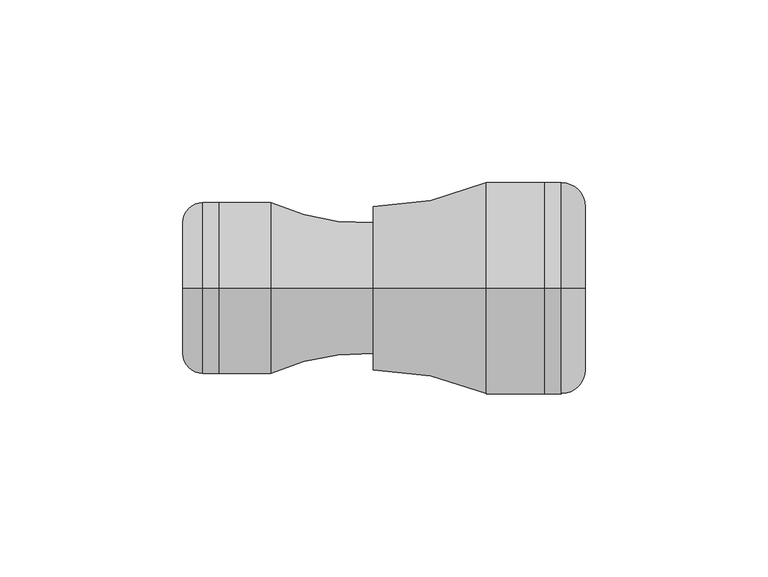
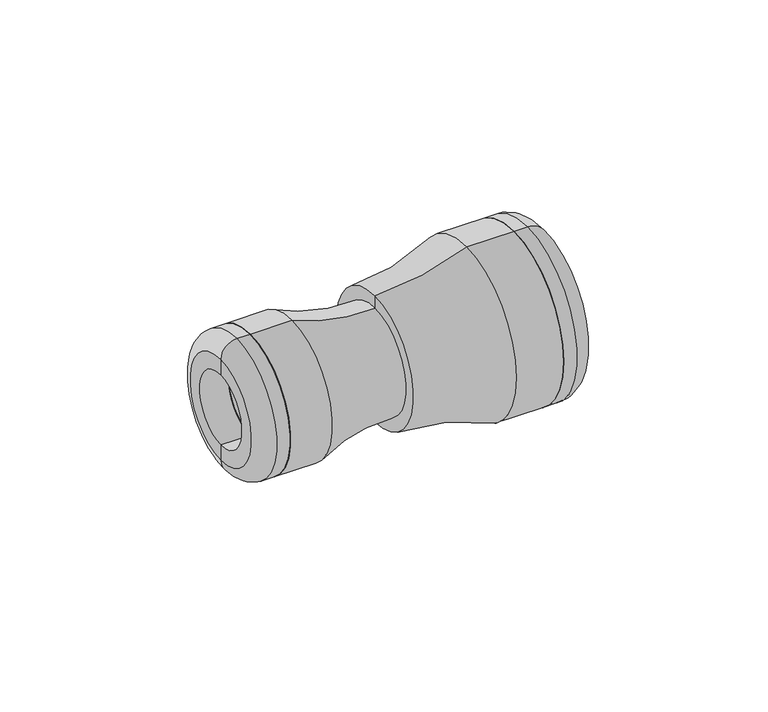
"""IFC4 building model written with IfcOpenShell, lengths in millimetres: pipe fitting geometry, Plumbing_Pipe-Fittings_Plasson_Reducing-Coupler_1011 : Plumbing_Pipe-Fittings_Plasson_Reducing-Coupler_1011."""

from ifc_helpers import new_model, si_unit, point, frame, origin, place, context, project, spatial, polyline, circle_curve, ellipse_curve, trimmed, source, transform, mapped, element, save
from ifc_brep_helpers import plane_surface, cylinder_surface, revolved_surface, advanced_brep


def pipe_fitting_500e536a(model_context):
    return source(origin(), model_context, "Body", "AdvancedBrep", [
        advanced_brep(
        [(-41.1182864, 0.0, -12.5), (-41.1182864, 0.0, 12.5), (-41.1182864, 0.0, 23.5), (-41.1182864, 0.0, -23.5), (-3.1182864, 0.0, -12.5), (-3.1182864, 0.0, 12.5), (-3.1182864, 0.0, 0.0), (0.8817136, 0.0, -18.0), (0.8817136, 0.0, 18.0), (0.8817136, 0.0, 0.0), (-27.1182864, 0.0, 23.5), (-27.1182864, 0.0, -23.5)],
        [
            (0, 1, circle_curve(frame((-41.1182864, 0.0, 0.0), z_axis=(1.0, 0.0, 0.0), x_axis=(0.0, 0.0, 1.0)), 12.5)),
            (1, 2),
            (2, 3, circle_curve(frame((-41.1182864, 0.0, 0.0), z_axis=(-1.0, 0.0, 0.0), x_axis=(0.0, 0.0, 1.0)), 23.5)),
            (3, 0),
            (1, 0, circle_curve(frame((-41.1182864, 0.0, 0.0), z_axis=(1.0, 0.0, 0.0), x_axis=(0.0, 0.0, 1.0)), 12.5)),
            (3, 2, circle_curve(frame((-41.1182864, 0.0, 0.0), z_axis=(-1.0, 0.0, 0.0), x_axis=(0.0, 0.0, 1.0)), 23.5)),
            (4, 5, circle_curve(frame((-3.1182864, 0.0, 0.0), z_axis=(1.0, 0.0, 0.0), x_axis=(0.0, 0.0, 1.0)), 12.5)),
            (5, 1),
            (0, 4),
            (5, 4, circle_curve(frame((-3.1182864, 0.0, 0.0), z_axis=(1.0, 0.0, 0.0), x_axis=(0.0, 0.0, 1.0)), 12.5)),
            (6, 5),
            (4, 6),
            (7, 8, circle_curve(frame((0.8817136, 0.0, 0.0), z_axis=(1.0, 0.0, 0.0), x_axis=(0.0, 0.0, 1.0)), 18.0)),
            (8, 9),
            (9, 7),
            (8, 7, circle_curve(frame((0.8817136, 0.0, 0.0), z_axis=(1.0, 0.0, 0.0), x_axis=(0.0, 0.0, 1.0)), 18.0)),
            (2, 10),
            (10, 11, circle_curve(frame((-27.1182864, 0.0, 0.0), z_axis=(-1.0, 0.0, 0.0), x_axis=(0.0, 0.0, 1.0)), 23.5)),
            (11, 3),
            (11, 10, circle_curve(frame((-27.1182864, 0.0, 0.0), z_axis=(-1.0, 0.0, 0.0), x_axis=(0.0, 0.0, 1.0)), 23.5)),
            (10, 8, circle_curve(frame((-1.4699347, 0.0, 80.0506993), z_axis=(0.0, -1.0, 0.0), x_axis=(1.0, 0.0, 0.0)), 62.0952457)),
            (7, 11, circle_curve(frame((-1.4699347, 0.0, -80.0506993), z_axis=(0.0, -1.0, 0.0), x_axis=(1.0, 0.0, 0.0)), 62.0952457)),
        ],
        [
            plane_surface(frame((-41.1182864, 0.0, 0.0), z_axis=(-1.0, 0.0, 0.0), x_axis=(0.0, 0.0, 1.0))),
            revolved_surface(polyline([(-41.1182864, 0.0, 12.5), (-3.1182864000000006, 0.0, 12.5)]), (-16.6182864, 0.0, 0.0), (-1.0, 0.0, 0.0)),
            plane_surface(frame((-3.1182864, 0.0, 0.0), z_axis=(-1.0, 0.0, 0.0), x_axis=(0.0, 0.0, 1.0))),
            plane_surface(frame((0.8817136, 0.0, 0.0), z_axis=(1.0, 0.0, 0.0), x_axis=(0.0, 0.0, 1.0))),
            cylinder_surface(frame((-16.6182864, 0.0, 0.0), z_axis=(-1.0, 0.0, 0.0), x_axis=(0.0, 0.0, 1.0)), 23.5),
            revolved_surface(trimmed(ellipse_curve(frame((-1.4699347, 0.0, 80.0506993), z_axis=(0.0, 1.0, 0.0), x_axis=(1.0, 0.0, 0.0)), 62.0952457, 62.0952457), [point((0.8817136, 0.0, 18.0))], [point((-27.1182864, 0.0, 23.5))], True, "CARTESIAN"), (-16.6182864, 0.0, 0.0), (-1.0, 0.0, 0.0)),
        ],
        [
            (0, [[1, 2, 3, 4]]),
            (0, [[5, -4, 6, -2]]),
            (1, [[7, 8, -1, 9]]),
            (1, [[10, -9, -5, -8]]),
            (2, [[11, -7, 12]]),
            (2, [[-12, -10, -11]]),
            (3, [[13, 14, 15]]),
            (3, [[16, -15, -14]]),
            (4, [[-3, 17, 18, 19]]),
            (4, [[-6, -19, 20, -17]]),
            (5, [[-18, 21, -13, 22]]),
            (5, [[-20, -22, -16, -21]]),
        ],
    ),
        advanced_brep(
        [(58.8817136, 0.0, -16.0), (58.8817136, 0.0, 16.0), (47.8817136, 0.0, 16.0), (47.8817136, 0.0, -16.0), (58.8817136, 0.0, -22.5), (58.8817136, 0.0, 22.5), (52.3817136, 0.0, -29.0), (52.3817136, 0.0, 29.0), (47.8817136, 0.0, -29.0), (47.8817136, 0.0, 29.0)],
        [
            (0, 1, circle_curve(frame((58.8817136, 0.0, 0.0), z_axis=(1.0, 0.0, 0.0), x_axis=(0.0, 0.0, 1.0)), 16.0)),
            (1, 2),
            (2, 3, circle_curve(frame((47.8817136, 0.0, 0.0), z_axis=(-1.0, 0.0, 0.0), x_axis=(0.0, 0.0, 1.0)), 16.0)),
            (3, 0),
            (1, 0, circle_curve(frame((58.8817136, 0.0, 0.0), z_axis=(1.0, 0.0, 0.0), x_axis=(0.0, 0.0, 1.0)), 16.0)),
            (3, 2, circle_curve(frame((47.8817136, 0.0, 0.0), z_axis=(-1.0, 0.0, 0.0), x_axis=(0.0, 0.0, 1.0)), 16.0)),
            (4, 5, circle_curve(frame((58.8817136, 0.0, 0.0), z_axis=(1.0, 0.0, 0.0), x_axis=(0.0, 0.0, 1.0)), 22.5)),
            (5, 1),
            (0, 4),
            (5, 4, circle_curve(frame((58.8817136, 0.0, 0.0), z_axis=(1.0, 0.0, 0.0), x_axis=(0.0, 0.0, 1.0)), 22.5)),
            (6, 7, circle_curve(frame((52.3817136, 0.0, 0.0), z_axis=(1.0, 0.0, 0.0), x_axis=(0.0, 0.0, 1.0)), 29.0)),
            (7, 5, circle_curve(frame((52.3817136, 0.0, 22.5), z_axis=(0.0, 1.0, 0.0), x_axis=(1.0, 0.0, 0.0)), 6.5)),
            (4, 6, circle_curve(frame((52.3817136, 0.0, -22.5), z_axis=(0.0, 1.0, 0.0), x_axis=(1.0, 0.0, 0.0)), 6.5)),
            (7, 6, circle_curve(frame((52.3817136, 0.0, 0.0), z_axis=(1.0, 0.0, 0.0), x_axis=(0.0, 0.0, 1.0)), 29.0)),
            (8, 9, circle_curve(frame((47.8817136, 0.0, 0.0), z_axis=(1.0, 0.0, 0.0), x_axis=(0.0, 0.0, 1.0)), 29.0)),
            (9, 7),
            (6, 8),
            (9, 8, circle_curve(frame((47.8817136, 0.0, 0.0), z_axis=(1.0, 0.0, 0.0), x_axis=(0.0, 0.0, 1.0)), 29.0)),
            (2, 9),
            (8, 3),
        ],
        [
            revolved_surface(polyline([(47.8817136, 0.0, 16.0), (58.8817136, 0.0, 16.0)]), (36.3288773, 0.0, 0.0), (-1.0, 0.0, 0.0)),
            plane_surface(frame((58.8817136, 0.0, 0.0), z_axis=(1.0, 0.0, 0.0), x_axis=(0.0, 0.0, 1.0))),
            revolved_surface(trimmed(ellipse_curve(frame((52.3817136, 0.0, 22.5), z_axis=(0.0, -1.0, 0.0), x_axis=(1.0, 0.0, 0.0)), 6.5, 6.5), [point((58.8817136, 0.0, 22.5))], [point((52.3817136, 0.0, 29.0))], True, "CARTESIAN"), (36.3288773, 0.0, 0.0), (-1.0, 0.0, 0.0)),
            cylinder_surface(frame((36.3288773, 0.0, 0.0), z_axis=(-1.0, 0.0, 0.0), x_axis=(0.0, 0.0, 1.0)), 29.0),
            plane_surface(frame((47.8817136, 0.0, 0.0), z_axis=(-1.0, 0.0, 0.0), x_axis=(0.0, 0.0, 1.0))),
        ],
        [
            (0, [[1, 2, 3, 4]]),
            (0, [[5, -4, 6, -2]]),
            (1, [[7, 8, -1, 9]]),
            (1, [[10, -9, -5, -8]]),
            (2, [[11, 12, -7, 13]]),
            (2, [[14, -13, -10, -12]]),
            (3, [[15, 16, -11, 17]]),
            (3, [[18, -17, -14, -16]]),
            (4, [[-3, 19, -15, 20]]),
            (4, [[-6, -20, -18, -19]]),
        ],
    ),
        advanced_brep(
        [(-41.1182864, 0.0, -23.5), (-41.1182864, 0.0, 23.5), (-41.1182864, 0.0, 12.5), (-41.1182864, 0.0, -12.5), (-45.6182864, 0.0, -23.5), (-45.6182864, 0.0, 23.5), (-51.1182864, 0.0, -18.0), (-51.1182864, 0.0, 18.0), (-51.1182864, 0.0, -12.5), (-51.1182864, 0.0, 12.5)],
        [
            (0, 1, circle_curve(frame((-41.1182864, 0.0, 0.0), z_axis=(1.0, 0.0, 0.0), x_axis=(0.0, 0.0, 1.0)), 23.5)),
            (1, 2),
            (2, 3, circle_curve(frame((-41.1182864, 0.0, 0.0), z_axis=(-1.0, 0.0, 0.0), x_axis=(0.0, 0.0, 1.0)), 12.5)),
            (3, 0),
            (1, 0, circle_curve(frame((-41.1182864, 0.0, 0.0), z_axis=(1.0, 0.0, 0.0), x_axis=(0.0, 0.0, 1.0)), 23.5)),
            (3, 2, circle_curve(frame((-41.1182864, 0.0, 0.0), z_axis=(-1.0, 0.0, 0.0), x_axis=(0.0, 0.0, 1.0)), 12.5)),
            (4, 5, circle_curve(frame((-45.6182864, 0.0, 0.0), z_axis=(1.0, 0.0, 0.0), x_axis=(0.0, 0.0, 1.0)), 23.5)),
            (5, 1),
            (0, 4),
            (5, 4, circle_curve(frame((-45.6182864, 0.0, 0.0), z_axis=(1.0, 0.0, 0.0), x_axis=(0.0, 0.0, 1.0)), 23.5)),
            (6, 7, circle_curve(frame((-51.1182864, 0.0, 0.0), z_axis=(1.0, 0.0, 0.0), x_axis=(0.0, 0.0, 1.0)), 18.0)),
            (7, 5, circle_curve(frame((-45.6182864, 0.0, 18.0), z_axis=(0.0, 1.0, 0.0), x_axis=(1.0, 0.0, 0.0)), 5.5)),
            (4, 6, circle_curve(frame((-45.6182864, 0.0, -18.0), z_axis=(0.0, 1.0, 0.0), x_axis=(1.0, 0.0, 0.0)), 5.5)),
            (7, 6, circle_curve(frame((-51.1182864, 0.0, 0.0), z_axis=(1.0, 0.0, 0.0), x_axis=(0.0, 0.0, 1.0)), 18.0)),
            (8, 9, circle_curve(frame((-51.1182864, 0.0, 0.0), z_axis=(1.0, 0.0, 0.0), x_axis=(0.0, 0.0, 1.0)), 12.5)),
            (9, 7),
            (6, 8),
            (9, 8, circle_curve(frame((-51.1182864, 0.0, 0.0), z_axis=(1.0, 0.0, 0.0), x_axis=(0.0, 0.0, 1.0)), 12.5)),
            (2, 9),
            (8, 3),
        ],
        [
            plane_surface(frame((-41.1182864, 0.0, 0.0), z_axis=(1.0, 0.0, 0.0), x_axis=(0.0, 0.0, 1.0))),
            cylinder_surface(frame((-56.1182864, 0.0, 0.0), z_axis=(-1.0, 0.0, 0.0), x_axis=(0.0, 0.0, 1.0)), 23.5),
            revolved_surface(trimmed(ellipse_curve(frame((-45.6182864, 0.0, 18.0), z_axis=(0.0, -1.0, 0.0), x_axis=(1.0, 0.0, 0.0)), 5.5, 5.5), [point((-45.6182864, 0.0, 23.5))], [point((-51.1182864, 0.0, 18.0))], True, "CARTESIAN"), (-56.1182864, 0.0, 0.0), (-1.0, 0.0, 0.0)),
            plane_surface(frame((-51.1182864, 0.0, 0.0), z_axis=(-1.0, 0.0, 0.0), x_axis=(0.0, 0.0, 1.0))),
            revolved_surface(polyline([(-51.1182864, 0.0, 12.5), (-41.1182864, 0.0, 12.5)]), (-56.1182864, 0.0, 0.0), (-1.0, 0.0, 0.0)),
        ],
        [
            (0, [[1, 2, 3, 4]]),
            (0, [[5, -4, 6, -2]]),
            (1, [[7, 8, -1, 9]]),
            (1, [[10, -9, -5, -8]]),
            (2, [[11, 12, -7, 13]]),
            (2, [[14, -13, -10, -12]]),
            (3, [[15, 16, -11, 17]]),
            (3, [[18, -17, -14, -16]]),
            (4, [[-3, 19, -15, 20]]),
            (4, [[-6, -20, -18, -19]]),
        ],
    ),
        advanced_brep(
        [(31.8817136, 0.0, -29.0), (31.8817136, 0.0, 29.0), (47.8817136, 0.0, 29.0), (47.8817136, 0.0, -29.0), (0.8817136, 0.0, -22.5), (0.8817136, 0.0, 22.5), (0.8817136, 0.0, 0.0), (4.8817136, 0.0, -16.0), (4.8817136, 0.0, 16.0), (4.8817136, 0.0, 0.0), (47.8817136, 0.0, -16.0), (47.8817136, 0.0, 16.0)],
        [
            (0, 1, circle_curve(frame((31.8817136, 0.0, 0.0), z_axis=(1.0, 0.0, 0.0), x_axis=(0.0, 0.0, 1.0)), 29.0)),
            (1, 2),
            (2, 3, circle_curve(frame((47.8817136, 0.0, 0.0), z_axis=(-1.0, 0.0, 0.0), x_axis=(0.0, 0.0, 1.0)), 29.0)),
            (3, 0),
            (1, 0, circle_curve(frame((31.8817136, 0.0, 0.0), z_axis=(1.0, 0.0, 0.0), x_axis=(0.0, 0.0, 1.0)), 29.0)),
            (3, 2, circle_curve(frame((47.8817136, 0.0, 0.0), z_axis=(-1.0, 0.0, 0.0), x_axis=(0.0, 0.0, 1.0)), 29.0)),
            (4, 5, circle_curve(frame((0.8817136, 0.0, 0.0), z_axis=(1.0, 0.0, 0.0), x_axis=(0.0, 0.0, 1.0)), 22.5)),
            (5, 1, circle_curve(frame((0.8817136, 0.0, 99.6730769), z_axis=(0.0, -1.0, 0.0), x_axis=(1.0, 0.0, 0.0)), 77.1730769)),
            (0, 4, circle_curve(frame((0.8817136, 0.0, -99.6730769), z_axis=(0.0, -1.0, 0.0), x_axis=(1.0, 0.0, 0.0)), 77.1730769)),
            (5, 4, circle_curve(frame((0.8817136, 0.0, 0.0), z_axis=(1.0, 0.0, 0.0), x_axis=(0.0, 0.0, 1.0)), 22.5)),
            (6, 5),
            (4, 6),
            (7, 8, circle_curve(frame((4.8817136, 0.0, 0.0), z_axis=(1.0, 0.0, 0.0), x_axis=(0.0, 0.0, 1.0)), 16.0)),
            (8, 9),
            (9, 7),
            (8, 7, circle_curve(frame((4.8817136, 0.0, 0.0), z_axis=(1.0, 0.0, 0.0), x_axis=(0.0, 0.0, 1.0)), 16.0)),
            (10, 11, circle_curve(frame((47.8817136, 0.0, 0.0), z_axis=(1.0, 0.0, 0.0), x_axis=(0.0, 0.0, 1.0)), 16.0)),
            (11, 8),
            (7, 10),
            (11, 10, circle_curve(frame((47.8817136, 0.0, 0.0), z_axis=(1.0, 0.0, 0.0), x_axis=(0.0, 0.0, 1.0)), 16.0)),
            (2, 11),
            (10, 3),
        ],
        [
            cylinder_surface(frame((-12.1182864, 0.0, 0.0), z_axis=(-1.0, 0.0, 0.0), x_axis=(0.0, 0.0, 1.0)), 29.0),
            revolved_surface(trimmed(ellipse_curve(frame((0.8817136, 0.0, 99.6730769), z_axis=(0.0, 1.0, 0.0), x_axis=(1.0, 0.0, 0.0)), 77.1730769, 77.1730769), [point((31.8817136, 0.0, 29.0))], [point((0.8817136, 0.0, 22.5))], True, "CARTESIAN"), (-12.1182864, 0.0, 0.0), (-1.0, 0.0, 0.0)),
            plane_surface(frame((0.8817136, 0.0, 0.0), z_axis=(-1.0, 0.0, 0.0), x_axis=(0.0, 0.0, 1.0))),
            plane_surface(frame((4.8817136, 0.0, 0.0), z_axis=(1.0, 0.0, 0.0), x_axis=(0.0, 0.0, 1.0))),
            revolved_surface(polyline([(4.881713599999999, 0.0, 16.0), (47.8817136, 0.0, 16.0)]), (-12.1182864, 0.0, 0.0), (-1.0, 0.0, 0.0)),
            plane_surface(frame((47.8817136, 0.0, 0.0), z_axis=(1.0, 0.0, 0.0), x_axis=(0.0, 0.0, 1.0))),
        ],
        [
            (0, [[1, 2, 3, 4]]),
            (0, [[5, -4, 6, -2]]),
            (1, [[7, 8, -1, 9]]),
            (1, [[10, -9, -5, -8]]),
            (2, [[11, -7, 12]]),
            (2, [[-12, -10, -11]]),
            (3, [[13, 14, 15]]),
            (3, [[16, -15, -14]]),
            (4, [[17, 18, -13, 19]]),
            (4, [[20, -19, -16, -18]]),
            (5, [[-3, 21, -17, 22]]),
            (5, [[-6, -22, -20, -21]]),
        ],
    ),
    ])


if __name__ == "__main__":
    model = new_model("IFC4")
    model_context = context("Model", 3, world=origin())
    ifc_project = project(units=[si_unit("LENGTHUNIT", "METRE", prefix="MILLI")], contexts=[model_context])
    site = spatial("IfcSite", under=ifc_project)
    building = spatial("IfcBuilding", under=site)
    placement = place(None, origin())
    pipe_fitting_shape = pipe_fitting_500e536a(model_context)
    element("IfcPipeFitting", 1, ObjectType="Plumbing_Pipe-Fittings_Plasson_Reducing-Coupler_1011 : Plumbing_Pipe-Fittings_Plasson_Reducing-Coupler_1011", at=placement, inside=building, context=model_context, shape_type="MappedRepresentation", body=[
        mapped(pipe_fitting_shape, transform((0.0, 0.0, 0.0), x_axis=(1.0, 0.0, 0.0), y_axis=(0.0, 1.0, 0.0), z_axis=(0.0, 0.0, 1.0))),
    ])
    save(model, "model.ifc")
